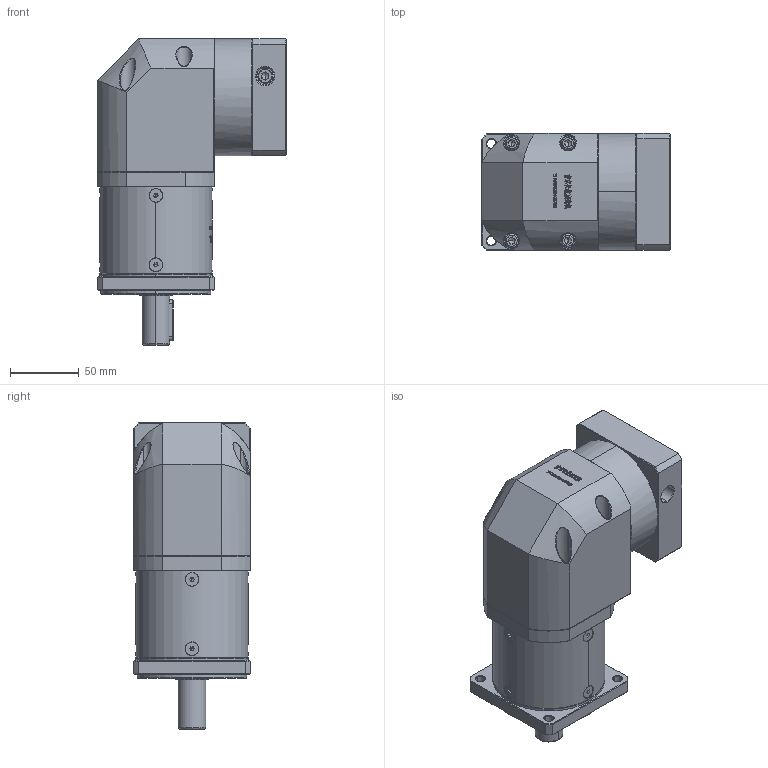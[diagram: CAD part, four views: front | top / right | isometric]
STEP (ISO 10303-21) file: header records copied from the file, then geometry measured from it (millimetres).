
FILE_DESCRIPTION (( 'STEP AP214' ), '1' );
FILE_NAME ('ZF80-D20-L2-16-80-100-M6.step', '2022-05-08T11:57:32', ( '' ), ( 'Microsoft' ), 'SwSTEP 2.0', 'SolidWorks 2016', '' );
FILE_SCHEMA (( 'AUTOMOTIVE_DESIGN' ));
Length unit declared in the file: millimetre
Products named in the file (1): ZF80-D20-L2-16-80-100-M6
Bounding box: 137.6 x 85 x 223 mm (x, y, z)
Volume: 1357093.9 mm3; surface area: 140621.6 mm2
Topology: 13 solids, 13 shells, 3060 faces, 8042 edges, 5132 vertices
Faces by surface type: plane 1617, bspline 624, cylinder 441, cone 364, torus 14
Entity records: 165015 total; most frequent: CARTESIAN_POINT 61575, ORIENTED_EDGE 15992, DIRECTION 12039, EDGE_CURVE 7996, VERTEX_POINT 5132, LINE 4967, VECTOR 4967, AXIS2_PLACEMENT_3D 3536
